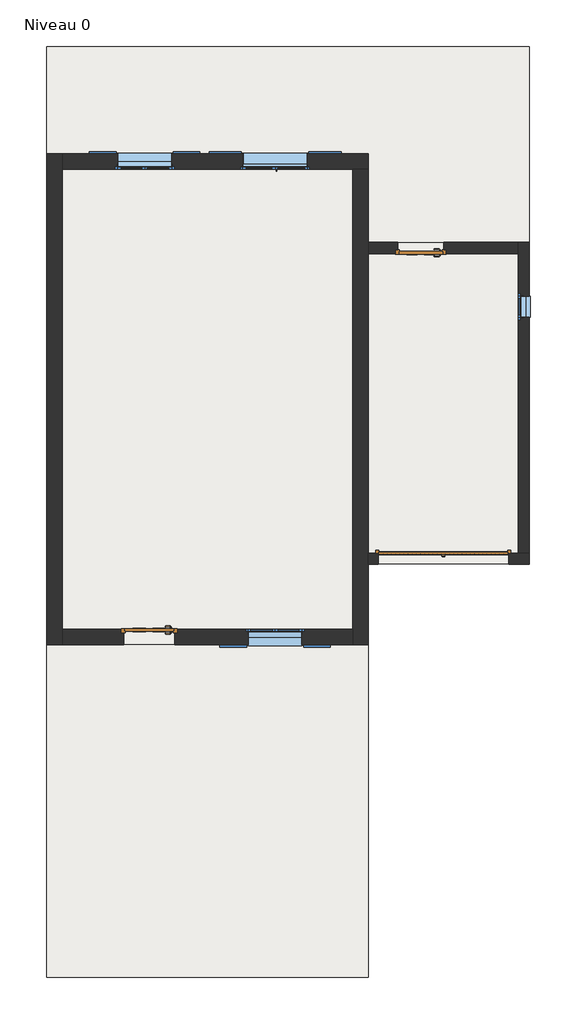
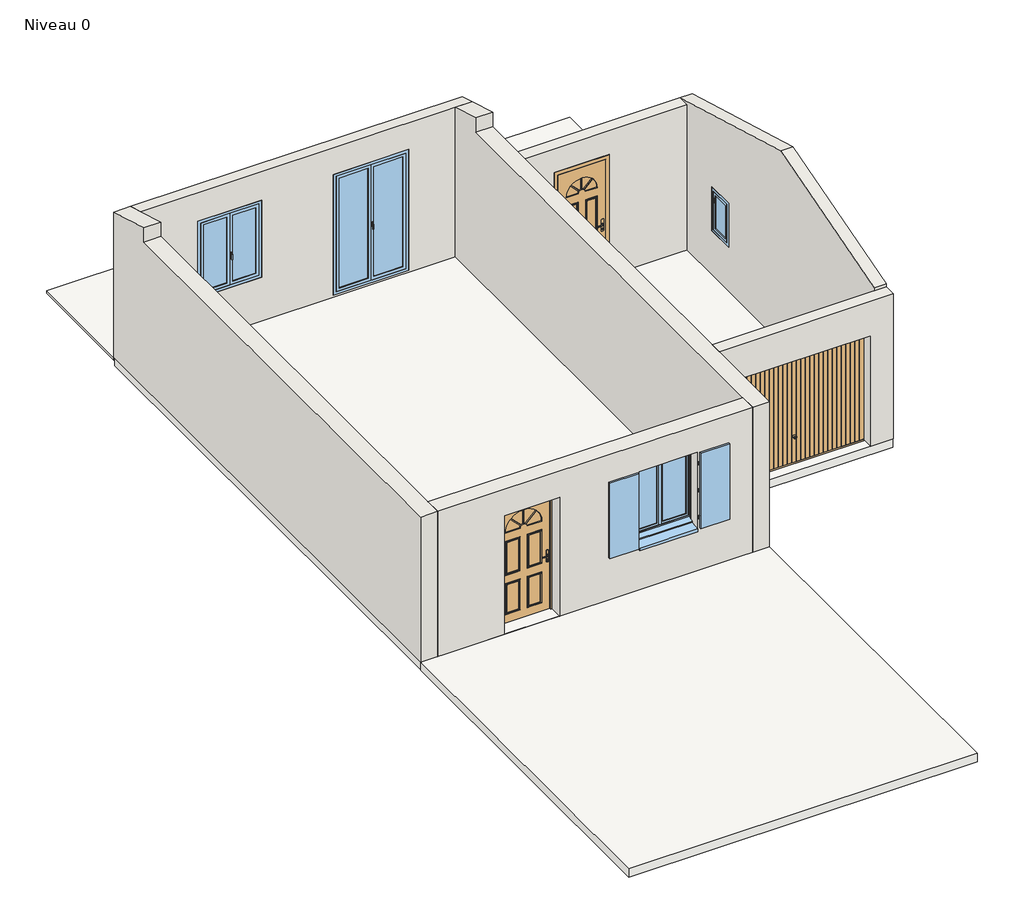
# One storey, incomplete: 7 walls, 4 slabs, 4 windows, 3 doors.
"""IFC4 building model written with IfcOpenShell, lengths in millimetres."""

from ifc_helpers import new_model, si_unit, frame, origin, place, context, project, spatial, polyline, outline, extrude, faceted_brep, transform, mapped, element, save
from components import door_0_83m_x_2_15m_d7885066, door_0_83m_x_2_15m_6004029d, door_0_93m_x_2_15m_e6f15c2d, door_0_93m_x_2_15m_05d205f4, door_2_4m_x_2m_3d3d9980, window_a55630fe, window_832ac1ed, window_1_20m_x_2_15m_cfff8fc0

model = new_model("IFC4")

# Units and contexts
model_context = context("Model", 3, world=origin())
ifc_project = project(units=[si_unit("LENGTHUNIT", "METRE", prefix="MILLI")], contexts=[model_context])

# Site, building, storey
site = spatial("IfcSite", under=ifc_project)
building = spatial("IfcBuilding", under=site)
storey = spatial("IfcBuildingStorey", under=building, Name="Niveau 0", Elevation=0.0)

# Doors
placement = place(None, origin())
door_0_83m_x_2_15m_shape = door_0_83m_x_2_15m_d7885066(model_context)
door_0_83m_x_2_15m_2_shape = door_0_83m_x_2_15m_6004029d(model_context)
element("IfcDoor", 1, ObjectType="Entrée - 01 : 0.83m x 2.15m", at=placement, inside=storey, context=model_context, shape_type="MappedRepresentation", body=[
    mapped(door_0_83m_x_2_15m_shape, transform((-1824.0916034, 46.6719643, 0.0), x_axis=(-1.0, 0.0, 0.0), y_axis=(0.0, -1.0, 0.0), z_axis=(0.0, 0.0, 1.0))),
    mapped(door_0_83m_x_2_15m_2_shape, transform((-1824.0916034, 46.6719643, 0.0), x_axis=(-1.0, 0.0, 0.0), y_axis=(0.0, -1.0, 0.0), z_axis=(0.0, 0.0, 1.0))),
])
door_0_93m_x_2_15m_shape = door_0_93m_x_2_15m_e6f15c2d(model_context)
door_0_93m_x_2_15m_2_shape = door_0_93m_x_2_15m_05d205f4(model_context)
element("IfcDoor", 2, ObjectType="Entrée - 01 : 0.93m x 2.15m", at=placement, inside=storey, context=model_context, shape_type="MappedRepresentation", body=[
    mapped(door_0_93m_x_2_15m_shape, transform((-6884.0916034, -7223.8372692, 0.0), x_axis=(-1.0, 0.0, 0.0), y_axis=(0.0, -1.0, 0.0), z_axis=(0.0, 0.0, 1.0))),
    mapped(door_0_93m_x_2_15m_2_shape, transform((-6884.0916034, -7223.8372692, 0.0), x_axis=(-1.0, 0.0, 0.0), y_axis=(0.0, -1.0, 0.0), z_axis=(0.0, 0.0, 1.0))),
])
door_2_4m_x_2m_shape = door_2_4m_x_2m_3d3d9980(model_context)
element("IfcDoor", 3, ObjectType="Garage basculante : 2.4m x 2m", at=placement, inside=storey, context=model_context, shape_type="MappedRepresentation", body=[
    mapped(door_2_4m_x_2m_shape, transform((-1419.0916034, -6097.1349782, 0.0), x_axis=(-1.0, 0.0, 0.0), y_axis=(0.0, -1.0, 0.0), z_axis=(0.0, 0.0, 1.0))),
])

# Slabs
element("IfcSlab", 4, ObjectType="Dalle en béton - 150 mm", at=placement, inside=storey, context=model_context, shape_type="SweptSolid", body=[
    extrude(outline(polyline([(-8789.0916034, 1781.4173476), (-2809.0916034, 1781.4173476), (-2809.0916034, -7348.5826524), (-8789.0916034, -7348.5826524), (-8789.0916034, 1781.4173476)])), frame((0.0, 0.0, -150.0), z_axis=(0.0, 0.0, 1.0), x_axis=(1.0, 0.0, 0.0)), (0.0, 0.0, 1.0), 150.0),
])
element("IfcSlab", 5, ObjectType="Dalle en béton - 150 mm", at=placement, inside=storey, context=model_context, shape_type="SweptSolid", body=[
    extrude(outline(polyline([(190.9083966, 131.4173476), (190.9083966, -5848.5826524), (-2809.0916034, -5848.5826524), (-2809.0916034, 131.4173476), (190.9083966, 131.4173476)])), frame((0.0, 0.0, -150.0), z_axis=(0.0, 0.0, 1.0), x_axis=(1.0, 0.0, 0.0)), (0.0, 0.0, 1.0), 150.0),
])
element("IfcSlab", 6, ObjectType="Dalle en béton - 150 mm", at=placement, inside=storey, context=model_context, shape_type="SweptSolid", body=[
    extrude(outline(polyline([(-2799.0916034, -7358.5826524), (-2799.0916034, -13558.5826524), (-8799.0916034, -13558.5826524), (-8799.0916034, -7358.5826524), (-2799.0916034, -7358.5826524)])), frame((0.0, 0.0, -150.0), z_axis=(0.0, 0.0, 1.0), x_axis=(1.0, 0.0, 0.0)), (0.0, 0.0, 1.0), 150.0),
])
element("IfcSlab", 7, ObjectType="plancher bois", at=placement, inside=storey, context=model_context, shape_type="SweptSolid", body=[
    extrude(outline(polyline([(-8799.0916034, 3791.4173476), (200.9083966, 3791.4173476), (200.9083966, 141.4173476), (-2799.0916034, 141.4173476), (-2799.0916034, 1781.4173476), (-8799.0916034, 1781.4173476), (-8799.0916034, 3791.4173476)])), frame((0.0, 0.0, -50.0), z_axis=(0.0, 0.0, 1.0), x_axis=(1.0, 0.0, 0.0)), (0.0, 0.0, 1.0), 50.0),
])

# Walls
element("IfcWall", 8, ObjectType="Ext. Parpaing 20", at=placement, inside=storey, context=model_context, shape_type="Brep", body=[
    faceted_brep([(200.9083966, -5858.5826524, 2640.0), (-2799.0916034, -5858.5826524, 2640.0), (-2799.0916034, -5858.5826524, 0.0), (-2619.0916034, -5858.5826524, 0.0), (-2619.0916034, -5858.5826524, 2015.0), (-189.0916034, -5858.5826524, 2015.0), (-189.0916034, -5858.5826524, 0.0), (200.9083966, -5858.5826524, 0.0), (-2799.0916034, -5648.5826524, 2640.0), (200.9083966, -5648.5826524, 2640.0), (200.9083966, -5648.5826524, 0.0), (-9.0916034, -5648.5826524, 0.0), (-189.0916034, -5648.5826524, 0.0), (-189.0916034, -5648.5826524, 2015.0), (-2619.0916034, -5648.5826524, 2015.0), (-2619.0916034, -5648.5826524, 0.0), (-2799.0916034, -5648.5826524, 0.0)], [[[0, 1, 2, 3, 4, 5, 6, 7]], [[8, 9, 10, 11, 12, 13, 14, 15, 16]], [[2, 16, 15, 3]], [[10, 7, 6, 12, 11]], [[1, 0, 9, 8]], [[2, 1, 8, 16]], [[0, 7, 10, 9]], [[4, 14, 13, 5]], [[5, 13, 12, 6]], [[14, 4, 3, 15]]]),
])
element("IfcWall", 9, ObjectType="Ext. Parpaing 20", at=placement, inside=storey, context=model_context, shape_type="Brep", body=[
    faceted_brep([(200.9083966, -5648.5826524, 0.0), (200.9083966, 141.4173476, 0.0), (200.9083966, 141.4173476, 2640.0), (200.9083966, -2858.5826524, 3500.2361573), (200.9083966, -5648.5826524, 2700.216531), (200.9083966, -5648.5826524, 2640.0), (200.9083966, -858.5826524, 1550.0), (200.9083966, -858.5826524, 720.0), (200.9083966, -1258.5826524, 720.0), (200.9083966, -1258.5826524, 1550.0), (-9.0916034, -5648.5826524, 0.0), (-9.0916034, -5648.5826524, 2700.216531), (-9.0916034, -2858.5826524, 3500.2361573), (-9.0916034, 141.4173476, 2640.0), (-9.0916034, 141.4173476, 0.0), (-9.0916034, -68.5826524, 0.0), (-9.0916034, -1308.5826524, 800.0), (-9.0916034, -808.5826524, 800.0), (-9.0916034, -808.5826524, 1600.0), (-9.0916034, -1308.5826524, 1600.0), (70.9083966, -858.5826524, 800.0), (70.9083966, -858.5826524, 720.0), (90.9083966, -858.5826524, 1550.0), (90.9083966, -858.5826524, 800.0), (70.9083966, -1258.5826524, 720.0), (70.9083966, -1258.5826524, 800.0), (90.9083966, -1258.5826524, 800.0), (90.9083966, -1258.5826524, 1550.0), (90.9083966, -848.5826524, 800.0), (40.9083966, -848.5826524, 800.0), (40.9083966, -808.5826524, 800.0), (40.9083966, -1308.5826524, 800.0), (40.9083966, -1268.5826524, 800.0), (90.9083966, -1268.5826524, 800.0), (40.9083966, -808.5826524, 1600.0), (40.9083966, -848.5826524, 1560.0), (40.9083966, -1268.5826524, 1560.0), (40.9083966, -1308.5826524, 1600.0), (90.9083966, -848.5826524, 1560.0), (90.9083966, -1268.5826524, 1560.0)], [[[0, 1, 2, 3, 4, 5], [6, 7, 8, 9]], [[10, 11, 12, 13, 14, 15], [16, 17, 18, 19]], [[1, 0, 10, 15, 14]], [[0, 5, 4, 11, 10]], [[2, 1, 14, 13]], [[20, 21, 7, 6, 22, 23]], [[24, 25, 26, 27, 9, 8]], [[21, 24, 8, 7]], [[21, 20, 25, 24]], [[6, 9, 27, 22]], [[25, 20, 23, 28, 29, 30, 17, 16, 31, 32, 33, 26]], [[17, 30, 34, 18]], [[30, 29, 35, 36, 32, 31, 37, 34]], [[29, 28, 38, 35]], [[28, 23, 22, 27, 26, 33, 39, 38]], [[18, 34, 37, 19]], [[36, 35, 38, 39]], [[37, 31, 16, 19]], [[32, 36, 39, 33]], [[4, 3, 12, 11]], [[3, 2, 13, 12]]]),
])
element("IfcWall", 10, ObjectType="Ext. Parpaing 20", at=placement, inside=storey, context=model_context, shape_type="Brep", body=[
    faceted_brep([(-2799.0916034, 141.4173476, 2640.0), (-9.0916034, 141.4173476, 2640.0), (-9.0916034, 141.4173476, 0.0), (-1399.0916034, 141.4173476, 0.0), (-1399.0916034, 141.4173476, 2160.0), (-2249.0916034, 141.4173476, 2160.0), (-2249.0916034, 141.4173476, 0.0), (-2799.0916034, 141.4173476, 0.0), (-9.0916034, -68.5826524, 2640.0), (-2799.0916034, -68.5826524, 2640.0), (-2799.0916034, -68.5826524, 0.0), (-2299.0916034, -68.5826524, 0.0), (-2299.0916034, -68.5826524, 2210.0), (-1349.0916034, -68.5826524, 2210.0), (-1349.0916034, -68.5826524, 0.0), (-9.0916034, -68.5826524, 0.0), (-1349.0916034, 1.4173476, 0.0), (-1399.0916034, 1.4173476, 0.0), (-2249.0916034, 1.4173476, 0.0), (-2299.0916034, 1.4173476, 0.0), (-1399.0916034, 1.4173476, 2160.0), (-2249.0916034, 1.4173476, 2160.0), (-1349.0916034, 1.4173476, 2210.0), (-2299.0916034, 1.4173476, 2210.0)], [[[0, 1, 2, 3, 4, 5, 6, 7]], [[8, 9, 10, 11, 12, 13, 14, 15]], [[2, 15, 14, 16, 17, 3]], [[10, 7, 6, 18, 19, 11]], [[1, 0, 9, 8]], [[2, 1, 8, 15]], [[0, 7, 10, 9]], [[20, 21, 5, 4]], [[17, 20, 4, 3]], [[21, 18, 6, 5]], [[13, 22, 16, 14]], [[21, 20, 17, 16, 22, 23, 19, 18]], [[22, 13, 12, 23]], [[19, 23, 12, 11]]]),
])
element("IfcWall", 11, ObjectType="Ext. Parpaing 20 + Isolant 8", at=placement, inside=storey, context=model_context, shape_type="Brep", body=[
    faceted_brep([(-8509.0916034, -7358.5826524, 0.0), (-8509.0916034, -7068.5826524, 0.0), (-8509.0916034, 1501.4173476, 0.0), (-8509.0916034, 1791.4173476, 0.0), (-8509.0916034, 1791.4173476, 2640.0), (-8509.0916034, 1501.4173476, 2723.1561619), (-8509.0916034, 891.4173476, 2898.0708472), (-8509.0916034, 891.4173476, 2640.0), (-8509.0916034, -7068.5826524, 2640.0), (-8509.0916034, -7358.5826524, 2640.0), (-8799.0916034, -7358.5826524, 0.0), (-8799.0916034, -7358.5826524, 2640.0), (-8799.0916034, 891.4173476, 2640.0), (-8799.0916034, 891.4173476, 2898.0708472), (-8799.0916034, 1791.4173476, 2640.0), (-8799.0916034, 1791.4173476, 0.0)], [[[0, 1, 2, 3, 4, 5, 6, 7, 8, 9]], [[10, 11, 12, 13, 14, 15]], [[3, 2, 1, 0, 10, 15]], [[4, 3, 15, 14]], [[0, 9, 11, 10]], [[9, 8, 7, 12, 11]], [[12, 7, 6, 13]], [[6, 5, 4, 14, 13]]]),
])
element("IfcWall", 12, ObjectType="Ext. Parpaing 20 + Isolant 8", at=placement, inside=storey, context=model_context, shape_type="Brep", body=[
    faceted_brep([(-8509.0916034, 1501.4173476, 0.0), (-3089.0916034, 1501.4173476, 0.0), (-2799.0916034, 1501.4173476, 0.0), (-2799.0916034, 1501.4173476, 2723.1561619), (-3089.0916034, 1501.4173476, 2723.1561619), (-8509.0916034, 1501.4173476, 2723.1561619), (-6419.0916034, 1501.4173476, 800.0), (-7519.0916034, 1501.4173476, 800.0), (-7519.0916034, 1501.4173476, 2200.0), (-6419.0916034, 1501.4173476, 2200.0), (-3889.0916034, 1501.4173476, 35.0), (-5189.0916034, 1501.4173476, 35.0), (-5189.0916034, 1501.4173476, 2235.0), (-3889.0916034, 1501.4173476, 2235.0), (-8509.0916034, 1791.4173476, 0.0), (-8509.0916034, 1791.4173476, 2640.0), (-2799.0916034, 1791.4173476, 2640.0), (-2799.0916034, 1791.4173476, 0.0), (-7469.0916034, 1791.4173476, 2150.0), (-7469.0916034, 1791.4173476, 720.0), (-6469.0916034, 1791.4173476, 720.0), (-6469.0916034, 1791.4173476, 2150.0), (-5139.0916034, 1791.4173476, 2185.0), (-5139.0916034, 1791.4173476, 12.9281106), (-3939.0916034, 1791.4173476, 12.9281106), (-3939.0916034, 1791.4173476, 2185.0), (-7469.0916034, 1581.4173476, 800.0), (-7469.0916034, 1581.4173476, 720.0), (-7469.0916034, 1601.4173476, 2150.0), (-7469.0916034, 1601.4173476, 800.0), (-6469.0916034, 1581.4173476, 720.0), (-6469.0916034, 1581.4173476, 800.0), (-6469.0916034, 1601.4173476, 800.0), (-6469.0916034, 1601.4173476, 2150.0), (-7479.0916034, 1601.4173476, 800.0), (-7479.0916034, 1551.4173476, 800.0), (-7519.0916034, 1551.4173476, 800.0), (-6419.0916034, 1551.4173476, 800.0), (-6459.0916034, 1551.4173476, 800.0), (-6459.0916034, 1601.4173476, 800.0), (-7519.0916034, 1551.4173476, 2200.0), (-7479.0916034, 1551.4173476, 2160.0), (-6459.0916034, 1551.4173476, 2160.0), (-6419.0916034, 1551.4173476, 2200.0), (-7479.0916034, 1601.4173476, 2160.0), (-6459.0916034, 1601.4173476, 2160.0), (-5139.0916034, 1581.4173476, 35.0), (-5139.0916034, 1601.4173476, 2185.0), (-5139.0916034, 1601.4173476, 35.0), (-3939.0916034, 1581.4173476, 35.0), (-3939.0916034, 1601.4173476, 35.0), (-3939.0916034, 1601.4173476, 2185.0), (-5149.0916034, 1601.4173476, 35.0), (-5149.0916034, 1551.4173476, 35.0), (-5189.0916034, 1551.4173476, 35.0), (-3889.0916034, 1551.4173476, 35.0), (-3929.0916034, 1551.4173476, 35.0), (-3929.0916034, 1601.4173476, 35.0), (-5189.0916034, 1551.4173476, 2235.0), (-5149.0916034, 1551.4173476, 2195.0), (-3929.0916034, 1551.4173476, 2195.0), (-3889.0916034, 1551.4173476, 2235.0), (-5149.0916034, 1601.4173476, 2195.0), (-3929.0916034, 1601.4173476, 2195.0)], [[[0, 1, 2, 3, 4, 5], [6, 7, 8, 9], [10, 11, 12, 13]], [[14, 15, 16, 17], [18, 19, 20, 21], [22, 23, 24, 25]], [[2, 1, 0, 14, 17]], [[0, 5, 15, 14]], [[3, 2, 17, 16]], [[26, 27, 19, 18, 28, 29]], [[30, 31, 32, 33, 21, 20]], [[27, 30, 20, 19]], [[27, 26, 31, 30]], [[18, 21, 33, 28]], [[31, 26, 29, 34, 35, 36, 7, 6, 37, 38, 39, 32]], [[7, 36, 40, 8]], [[36, 35, 41, 42, 38, 37, 43, 40]], [[35, 34, 44, 41]], [[34, 29, 28, 33, 32, 39, 45, 44]], [[8, 40, 43, 9]], [[42, 41, 44, 45]], [[43, 37, 6, 9]], [[38, 42, 45, 39]], [[46, 23, 22, 47, 48]], [[24, 49, 50, 51, 25]], [[46, 49, 24, 23]], [[22, 25, 51, 47]], [[49, 46, 48, 52, 53, 54, 11, 10, 55, 56, 57, 50]], [[11, 54, 58, 12]], [[54, 53, 59, 60, 56, 55, 61, 58]], [[53, 52, 62, 59]], [[52, 48, 47, 51, 50, 57, 63, 62]], [[12, 58, 61, 13]], [[60, 59, 62, 63]], [[61, 55, 10, 13]], [[56, 60, 63, 57]], [[5, 4, 3, 16, 15]]]),
])
element("IfcWall", 13, ObjectType="Ext. Parpaing 20 + Isolant 8", at=placement, inside=storey, context=model_context, shape_type="Brep", body=[
    faceted_brep([(-3089.0916034, 1501.4173476, 0.0), (-3089.0916034, -7068.5826524, 0.0), (-3089.0916034, -7358.5826524, 0.0), (-3089.0916034, -7358.5826524, 2640.0), (-3089.0916034, -7068.5826524, 2640.0), (-3089.0916034, 891.4173476, 2640.0), (-3089.0916034, 891.4173476, 2898.0708472), (-3089.0916034, 1501.4173476, 2723.1561619), (-2799.0916034, 1501.4173476, 0.0), (-2799.0916034, 1501.4173476, 2723.1561619), (-2799.0916034, 891.4173476, 2898.0708472), (-2799.0916034, 891.4173476, 2640.0), (-2799.0916034, 141.4173476, 2640.0), (-2799.0916034, -68.5826524, 2640.0), (-2799.0916034, -5648.5826524, 2640.0), (-2799.0916034, -5858.5826524, 2640.0), (-2799.0916034, -7358.5826524, 2640.0), (-2799.0916034, -7358.5826524, 0.0), (-2799.0916034, -5858.5826524, 0.0), (-2799.0916034, -5648.5826524, 0.0), (-2799.0916034, -68.5826524, 0.0), (-2799.0916034, 141.4173476, 0.0)], [[[0, 1, 2, 3, 4, 5, 6, 7]], [[8, 9, 10, 11, 12, 13, 14, 15, 16, 17, 18, 19, 20, 21]], [[2, 1, 0, 8, 21, 20, 19, 18, 17]], [[0, 7, 9, 8]], [[3, 2, 17, 16]], [[5, 4, 3, 16, 15, 14, 13, 12, 11]], [[5, 11, 10, 6]], [[7, 6, 10, 9]]]),
])
element("IfcWall", 14, ObjectType="Ext. Parpaing 20 + Isolant 8", at=placement, inside=storey, context=model_context, shape_type="Brep", body=[
    faceted_brep([(-8509.0916034, -7068.5826524, 2640.0), (-3089.0916034, -7068.5826524, 2640.0), (-3089.0916034, -7068.5826524, 0.0), (-6359.0916034, -7068.5826524, 0.0), (-6359.0916034, -7068.5826524, 2210.0), (-7409.0916034, -7068.5826524, 2210.0), (-7409.0916034, -7068.5826524, 0.0), (-8509.0916034, -7068.5826524, 0.0), (-5089.0916034, -7068.5826524, 800.0), (-3989.0916034, -7068.5826524, 800.0), (-3989.0916034, -7068.5826524, 2200.0), (-5089.0916034, -7068.5826524, 2200.0), (-3089.0916034, -7358.5826524, 2640.0), (-8509.0916034, -7358.5826524, 2640.0), (-8509.0916034, -7358.5826524, 0.0), (-7359.0916034, -7358.5826524, 0.0), (-7359.0916034, -7358.5826524, 2160.0), (-6409.0916034, -7358.5826524, 2160.0), (-6409.0916034, -7358.5826524, 0.0), (-3089.0916034, -7358.5826524, 0.0), (-4039.0916034, -7358.5826524, 2150.0), (-4039.0916034, -7358.5826524, 720.0), (-5039.0916034, -7358.5826524, 720.0), (-5039.0916034, -7358.5826524, 2150.0), (-6409.0916034, -7138.5826524, 0.0), (-6359.0916034, -7138.5826524, 0.0), (-7409.0916034, -7138.5826524, 0.0), (-7359.0916034, -7138.5826524, 0.0), (-7359.0916034, -7138.5826524, 2160.0), (-6409.0916034, -7138.5826524, 2160.0), (-6359.0916034, -7138.5826524, 2210.0), (-7409.0916034, -7138.5826524, 2210.0), (-4039.0916034, -7148.5826524, 800.0), (-4039.0916034, -7148.5826524, 720.0), (-4039.0916034, -7168.5826524, 2150.0), (-4039.0916034, -7168.5826524, 800.0), (-5039.0916034, -7148.5826524, 720.0), (-5039.0916034, -7148.5826524, 800.0), (-5039.0916034, -7168.5826524, 800.0), (-5039.0916034, -7168.5826524, 2150.0), (-4029.0916034, -7168.5826524, 800.0), (-4029.0916034, -7118.5826524, 800.0), (-3989.0916034, -7118.5826524, 800.0), (-5089.0916034, -7118.5826524, 800.0), (-5049.0916034, -7118.5826524, 800.0), (-5049.0916034, -7168.5826524, 800.0), (-3989.0916034, -7118.5826524, 2200.0), (-4029.0916034, -7118.5826524, 2160.0), (-5049.0916034, -7118.5826524, 2160.0), (-5089.0916034, -7118.5826524, 2200.0), (-4029.0916034, -7168.5826524, 2160.0), (-5049.0916034, -7168.5826524, 2160.0)], [[[0, 1, 2, 3, 4, 5, 6, 7], [8, 9, 10, 11]], [[12, 13, 14, 15, 16, 17, 18, 19], [20, 21, 22, 23]], [[2, 19, 18, 24, 25, 3]], [[14, 7, 6, 26, 27, 15]], [[1, 0, 13, 12]], [[0, 7, 14, 13]], [[2, 1, 12, 19]], [[28, 29, 17, 16]], [[29, 24, 18, 17]], [[27, 28, 16, 15]], [[25, 30, 4, 3]], [[29, 28, 27, 26, 31, 30, 25, 24]], [[4, 30, 31, 5]], [[31, 26, 6, 5]], [[32, 33, 21, 20, 34, 35]], [[36, 37, 38, 39, 23, 22]], [[33, 36, 22, 21]], [[33, 32, 37, 36]], [[20, 23, 39, 34]], [[37, 32, 35, 40, 41, 42, 9, 8, 43, 44, 45, 38]], [[9, 42, 46, 10]], [[42, 41, 47, 48, 44, 43, 49, 46]], [[41, 40, 50, 47]], [[40, 35, 34, 39, 38, 45, 51, 50]], [[10, 46, 49, 11]], [[48, 47, 50, 51]], [[49, 43, 8, 11]], [[44, 48, 51, 45]]]),
])

# Windows
window_shape = window_a55630fe(model_context)
element("IfcWindow", 15, ObjectType="2 Vantaux droits - Volets et petits bois : 1m x 1.35m - Appui Béton", at=placement, inside=storey, context=model_context, shape_type="MappedRepresentation", body=[
    mapped(window_shape, transform((-4539.0916034, -7213.5826524, 0.0), x_axis=(-1.0, 0.0, 0.0), y_axis=(0.0, -1.0, 0.0), z_axis=(0.0, 0.0, 1.0))),
])
element("IfcWindow", 16, ObjectType="2 Vantaux droits - Volets et petits bois : 1m x 1.35m - Appui Béton", at=placement, inside=storey, context=model_context, shape_type="MappedRepresentation", body=[
    mapped(window_shape, transform((-6969.0916034, 1646.4173476, 0.0), x_axis=(1.0, 0.0, 0.0), y_axis=(0.0, 1.0, 0.0), z_axis=(0.0, 0.0, 1.0))),
])
window_2_shape = window_832ac1ed(model_context)
element("IfcWindow", 17, ObjectType="1 Vantail droit - Volet et petits bois : 0.40m x 0.75m - Appui Béton", at=placement, inside=storey, context=model_context, shape_type="MappedRepresentation", body=[
    mapped(window_2_shape, transform((95.9083966, -1058.5826524, 0.0), x_axis=(0.0, -1.0, 0.0), y_axis=(1.0, 0.0, 0.0), z_axis=(0.0, 0.0, 1.0))),
])
window_1_20m_x_2_15m_shape = window_1_20m_x_2_15m_cfff8fc0(model_context)
element("IfcWindow", 18, ObjectType="PF 2 Vantaux droits - Volets et petits bois : 1.20m x 2.15m", at=placement, inside=storey, context=model_context, shape_type="MappedRepresentation", body=[
    mapped(window_1_20m_x_2_15m_shape, transform((-4539.0916034, 1646.4173476, 0.0), x_axis=(1.0, 0.0, 0.0), y_axis=(0.0, 1.0, 0.0), z_axis=(0.0, 0.0, 1.0))),
])

save(model, "model.ifc")
